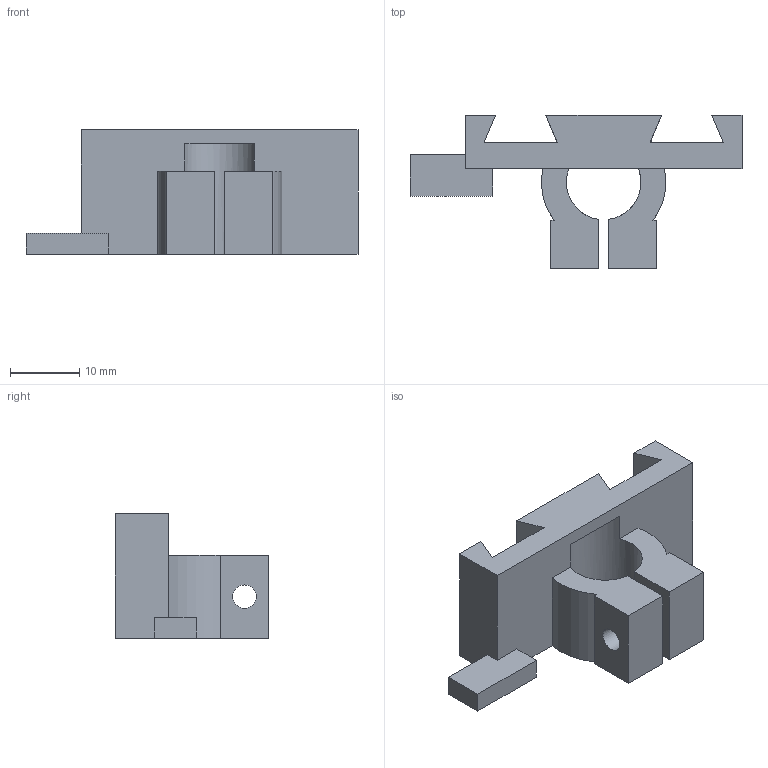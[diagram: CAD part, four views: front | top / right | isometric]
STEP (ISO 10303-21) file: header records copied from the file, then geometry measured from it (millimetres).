
FILE_DESCRIPTION(('Open CASCADE Model'),'2;1');
FILE_NAME('Open CASCADE Shape Model','2026-10-21T12:04:47',('Author'),( 'Open CASCADE'),'Open CASCADE STEP processor 7.9','Open CASCADE 7.9' ,'Unknown');
FILE_SCHEMA(('AUTOMOTIVE_DESIGN { 1 0 10303 214 1 1 1 1 }'));
Length unit declared in the file: millimetre
Products named in the file (1): Open CASCADE STEP translator 7.9 30
Bounding box: 48 x 22.2 x 18 mm (x, y, z)
Volume: 5836.7 mm3; surface area: 4151.3 mm2
Topology: 1 solids, 1 shells, 39 faces, 111 edges, 74 vertices
Faces by surface type: plane 32, cylinder 7
Full cylindrical faces by diameter (mm): 3.4 x2
Entity records: 2749 total; most frequent: CARTESIAN_POINT 501, DIRECTION 420, LINE 301, VECTOR 301, ORIENTED_EDGE 222, PCURVE 222, DEFINITIONAL_REPRESENTATION 222, EDGE_CURVE 111
